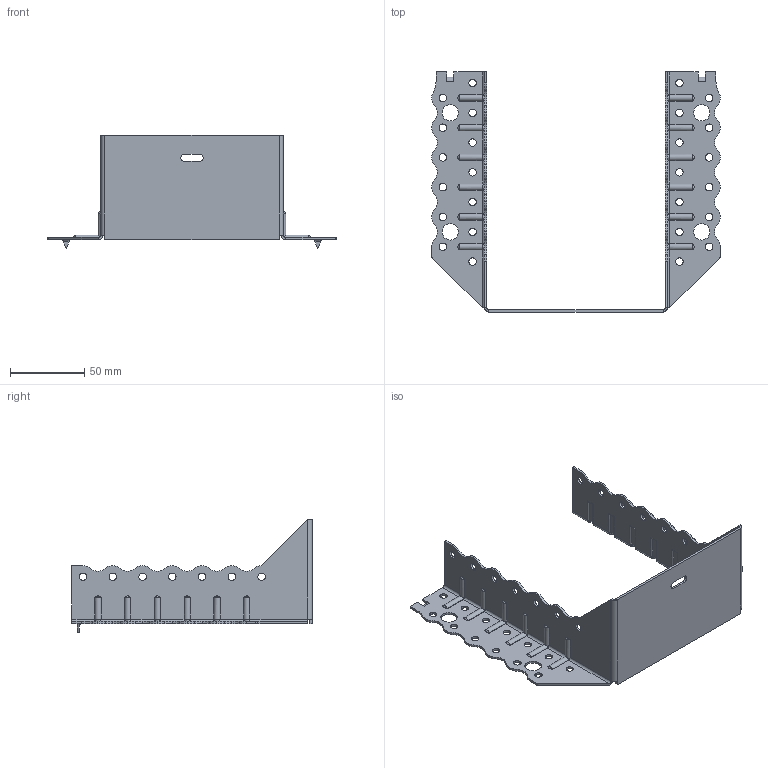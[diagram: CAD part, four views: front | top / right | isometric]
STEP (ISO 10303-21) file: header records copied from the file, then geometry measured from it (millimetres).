
FILE_DESCRIPTION (( 'STEP AP203' ), '1' );
FILE_NAME ('30511TOP.STEP', '2021-04-07T13:59:34', ( '' ), ( '' ), 'SwSTEP 2.0', 'SolidWorks 2013', '' );
FILE_SCHEMA (( 'CONFIG_CONTROL_DESIGN' ));
Length unit declared in the file: millimetre
Products named in the file (1): 30511TOP
Bounding box: 194 x 161.5 x 76 mm (x, y, z)
Volume: 44582.8 mm3; surface area: 63368.7 mm2
Topology: 1 solids, 1 shells, 498 faces, 1348 edges, 852 vertices
Faces by surface type: cylinder 317, plane 133, torus 24, bspline 24
Entity records: 18595 total; most frequent: CARTESIAN_POINT 5929, ORIENTED_EDGE 2696, DIRECTION 2596, EDGE_CURVE 1348, AXIS2_PLACEMENT_3D 949, VERTEX_POINT 852, LINE 698, VECTOR 698
